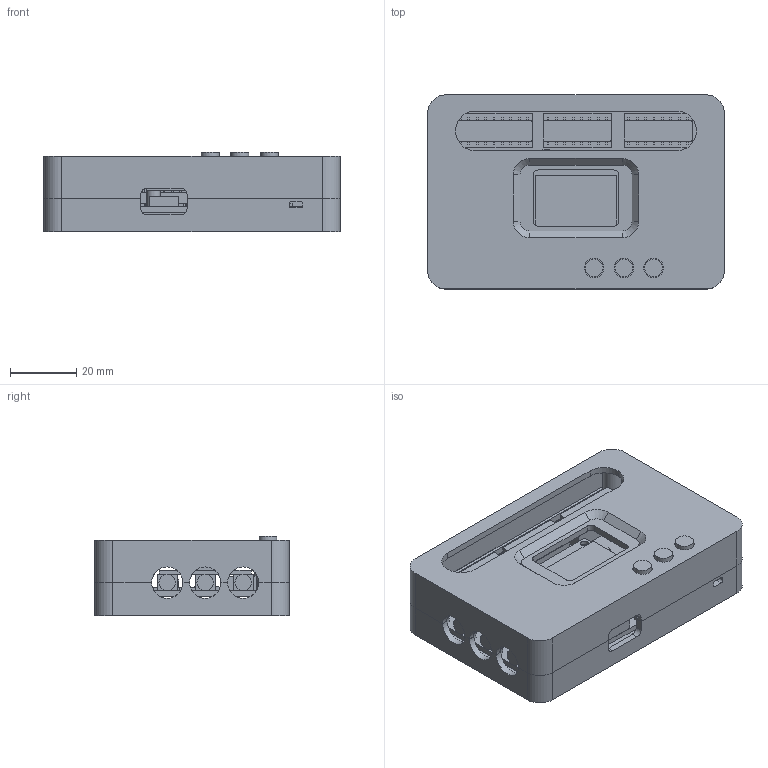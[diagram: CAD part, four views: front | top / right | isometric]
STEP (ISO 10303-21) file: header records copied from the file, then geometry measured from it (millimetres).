
FILE_DESCRIPTION(('Open CASCADE Model'),'2;1');
FILE_NAME('Open CASCADE Shape Model','2026-10-05T20:28:07',('Author'),( 'Open CASCADE'),'Open CASCADE STEP processor 7.9','Open CASCADE 7.9' ,'Unknown');
FILE_SCHEMA(('AUTOMOTIVE_DESIGN { 1 0 10303 214 1 1 1 1 }'));
Length unit declared in the file: millimetre
Products named in the file (195): Chiptune_Enclosure; base; lid; pcb; button_1; button_2; button_3; U10_socket; U10_chip; U10_lead_0; U10_lead_1; U10_lead_2; U10_lead_3; U10_lead_4; U10_lead_5; U10_lead_6; U10_lead_7; U10_lead_8; U10_lead_9; U10_lead_10; U10_lead_11; U10_lead_12; U10_lead_13; U10_lead_14; U10_lead_15; U10_lead_16; U10_lead_17; U11_socket; U11_chip; U11_lead_0; U11_lead_1; U11_lead_2; U11_lead_3; U11_lead_4; U11_lead_5; U11_lead_6; U11_lead_7; U11_lead_8; U11_lead_9; U11_lead_10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
Assembly tree (194 placements, depth 2):
  Chiptune_Enclosure
    base
    lid
    pcb
    button_1
    button_2
    button_3
    U10_socket
    U10_chip
    U10_lead_0
    U10_lead_1
    U10_lead_2
    U10_lead_3
    U10_lead_4
    U10_lead_5
    U10_lead_6
    U10_lead_7
    U10_lead_8
    U10_lead_9
    U10_lead_10
    U10_lead_11
    U10_lead_12
    U10_lead_13
    U10_lead_14
    U10_lead_15
    U10_lead_16
    U10_lead_17
    U11_socket
    U11_chip
    U11_lead_0
    U11_lead_1
    U11_lead_2
    U11_lead_3
    U11_lead_4
    U11_lead_5
    U11_lead_6
    U11_lead_7
    U11_lead_8
    U11_lead_9
    U11_lead_10
    U11_lead_11
    U11_lead_12
    U11_lead_13
    U11_lead_14
    U11_lead_15
    U12_socket
    U12_chip
    U12_lead_0
    U12_lead_1
    U12_lead_2
    U12_lead_3
    U12_lead_4
    U12_lead_5
    U12_lead_6
    U12_lead_7
    U12_lead_8
    U12_lead_9
    U12_lead_10
    U12_lead_11
    U12_lead_12
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Bounding box: 89.8 x 58.8 x 24.2 mm (x, y, z)
Volume: 48378.8 mm3; surface area: 55648.8 mm2
Topology: 194 solids, 194 shells, 1466 faces, 3102 edges, 2064 vertices
Faces by surface type: plane 1301, cylinder 157, cone 8
Full cylindrical faces by diameter (mm): 2 x10, 2.2 x4, 2.4 x11, 2.5 x8, 3.2 x4, 4.1 x4, 4.6 x4, 4.7 x3, 5 x6, 5.4 x3, 5.6 x8, 5.9 x3, 7.4 x3, 8 x3
Entity records: 82431 total; most frequent: CARTESIAN_POINT 14665, DIRECTION 12319, LINE 8046, VECTOR 8046, ORIENTED_EDGE 6204, PCURVE 6204, DEFINITIONAL_REPRESENTATION 6204, EDGE_CURVE 3102
